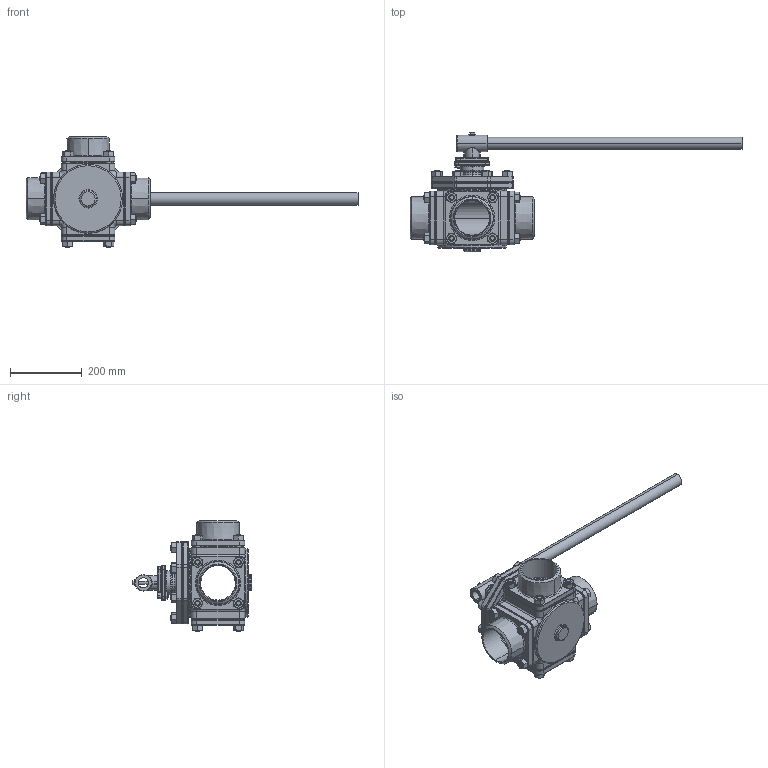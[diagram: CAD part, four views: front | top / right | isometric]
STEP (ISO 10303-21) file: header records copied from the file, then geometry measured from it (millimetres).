
FILE_DESCRIPTION (( 'STEP AP214' ), '1' );
FILE_NAME ('505T-100-3Way.STEP', '2017-10-12T02:25:52', ( '' ), ( '' ), 'SwSTEP 2.0', 'SolidWorks 2012', '' );
FILE_SCHEMA (( 'AUTOMOTIVE_DESIGN' ));
Length unit declared in the file: millimetre
Products named in the file (1): 505T-100-3Way
Bounding box: 922.5 x 331.5 x 307 mm (x, y, z)
Volume: 7755306.4 mm3; surface area: 785714.2 mm2
Topology: 1 solids, 2 shells, 1295 faces, 3058 edges, 1852 vertices
Faces by surface type: cylinder 401, cone 370, plane 323, torus 171, bspline 22, sphere 8
Entity records: 42495 total; most frequent: CARTESIAN_POINT 12904, DIRECTION 6327, ORIENTED_EDGE 6108, EDGE_CURVE 3054, AXIS2_PLACEMENT_3D 2635, VERTEX_POINT 1852, EDGE_LOOP 1450, CIRCLE 1361
